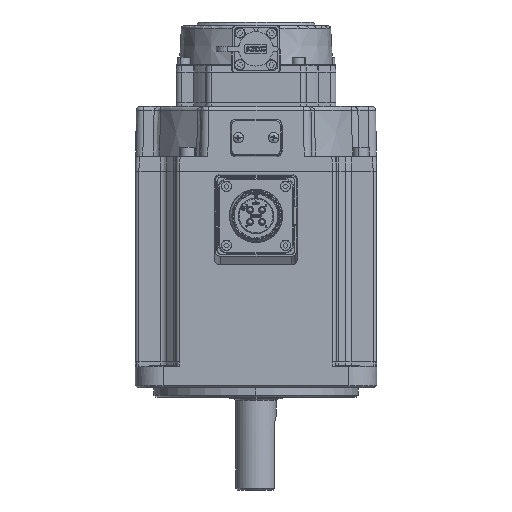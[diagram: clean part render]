
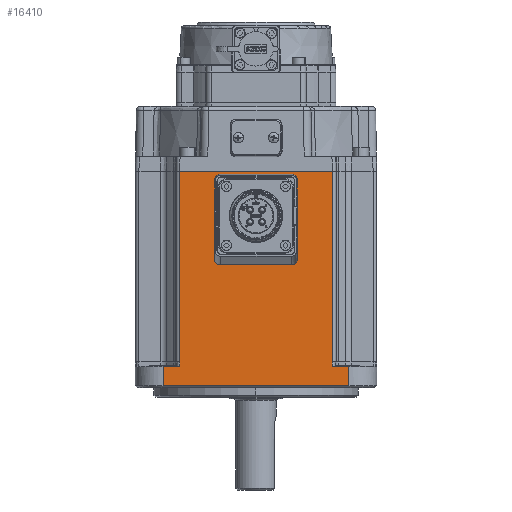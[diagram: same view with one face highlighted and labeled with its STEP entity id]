
A CAD part, left-side view. The second image highlights one B-rep face of the part: STEP entity #16410.
In plain terms, the highlighted planar face has unit normal (-1, 0, 0).
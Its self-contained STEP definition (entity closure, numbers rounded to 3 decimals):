
#45 = CARTESIAN_POINT ( 'NONE',  ( -65., 50., -65.75 ) ) ;
#105 = VECTOR ( 'NONE', #78436, 1000. ) ;
#333 = CARTESIAN_POINT ( 'NONE',  ( -65., -50., -65.75 ) ) ;
#641 = VECTOR ( 'NONE', #93406, 1000. ) ;
#887 = EDGE_CURVE ( 'NONE', #80078, #46115, #82556, .T. ) ;
#2373 = VECTOR ( 'NONE', #37106, 1000. ) ;
#2708 = EDGE_CURVE ( 'NONE', #79660, #63999, #80092, .T. ) ;
#3411 = CARTESIAN_POINT ( 'NONE',  ( -65., -43., 49.75 ) ) ;
#6315 = CARTESIAN_POINT ( 'NONE',  ( -65., 41.035, 49.75 ) ) ;
#7345 = VERTEX_POINT ( 'NONE', #94482 ) ;
#7347 = VERTEX_POINT ( 'NONE', #86104 ) ;
#7440 = VECTOR ( 'NONE', #96226, 1000. ) ;
#9915 = EDGE_CURVE ( 'NONE', #80078, #107008, #11202, .T. ) ;
#10335 = CARTESIAN_POINT ( 'NONE',  ( -65., 41.035, 49.75 ) ) ;
#10767 = DIRECTION ( 'NONE',  ( 0., -1., 0.017 ) ) ;
#11202 = LINE ( 'NONE', #3411, #47579 ) ;
#14703 = ORIENTED_EDGE ( 'NONE', *, *, #76554, .T. ) ;
#16410 = ADVANCED_FACE ( 'NONE', ( #44153 ), #68661, .F. ) ;
#16510 = ORIENTED_EDGE ( 'NONE', *, *, #2708, .T. ) ;
#16606 = LINE ( 'NONE', #25550, #641 ) ;
#18053 = CARTESIAN_POINT ( 'NONE',  ( -65., -41.035, -52.75 ) ) ;
#18422 = VECTOR ( 'NONE', #62409, 1000. ) ;
#19902 = VECTOR ( 'NONE', #10767, 1000. ) ;
#20130 = LINE ( 'NONE', #70740, #18422 ) ;
#21121 = VECTOR ( 'NONE', #82573, 1000. ) ;
#25550 = CARTESIAN_POINT ( 'NONE',  ( -65., -50., -65.75 ) ) ;
#31656 = ORIENTED_EDGE ( 'NONE', *, *, #83778, .T. ) ;
#31922 = ORIENTED_EDGE ( 'NONE', *, *, #78232, .T. ) ;
#34912 = ORIENTED_EDGE ( 'NONE', *, *, #81891, .F. ) ;
#37106 = DIRECTION ( 'NONE',  ( 0., 0., 1. ) ) ;
#37268 = CARTESIAN_POINT ( 'NONE',  ( -65., 50., 49.75 ) ) ;
#38842 = LINE ( 'NONE', #107291, #104856 ) ;
#41761 = EDGE_CURVE ( 'NONE', #79660, #48491, #53053, .T. ) ;
#42518 = ORIENTED_EDGE ( 'NONE', *, *, #887, .T. ) ;
#43014 = ORIENTED_EDGE ( 'NONE', *, *, #9915, .F. ) ;
#44153 = FACE_OUTER_BOUND ( 'NONE', #63344, .T. ) ;
#45137 = DIRECTION ( 'NONE',  ( 0., -1., 0. ) ) ;
#46115 = VERTEX_POINT ( 'NONE', #47126 ) ;
#47126 = CARTESIAN_POINT ( 'NONE',  ( -65., 41.035, -52.75 ) ) ;
#47579 = VECTOR ( 'NONE', #45137, 1000. ) ;
#48491 = VERTEX_POINT ( 'NONE', #62778 ) ;
#48634 = LINE ( 'NONE', #58077, #21121 ) ;
#50275 = VERTEX_POINT ( 'NONE', #18053 ) ;
#50809 = EDGE_CURVE ( 'NONE', #95306, #7345, #20130, .T. ) ;
#51697 = ORIENTED_EDGE ( 'NONE', *, *, #64375, .T. ) ;
#53053 = LINE ( 'NONE', #86991, #19902 ) ;
#58077 = CARTESIAN_POINT ( 'NONE',  ( -65., -41.035, 49.75 ) ) ;
#62409 = DIRECTION ( 'NONE',  ( 0., 0., 1. ) ) ;
#62778 = CARTESIAN_POINT ( 'NONE',  ( -65., 41.035, -55.094 ) ) ;
#63344 = EDGE_LOOP ( 'NONE', ( #42518, #31922, #82975, #16510, #51697, #104233, #34912, #14703, #31656, #43014 ) ) ;
#63999 = VERTEX_POINT ( 'NONE', #45 ) ;
#64375 = EDGE_CURVE ( 'NONE', #63999, #95306, #16606, .T. ) ;
#64404 = CARTESIAN_POINT ( 'NONE',  ( -65., 50., -55.247 ) ) ;
#67380 = VECTOR ( 'NONE', #97099, 1000. ) ;
#68661 = PLANE ( 'NONE',  #71179 ) ;
#69216 = CARTESIAN_POINT ( 'NONE',  ( -65., -43., 49.75 ) ) ;
#69507 = CARTESIAN_POINT ( 'NONE',  ( -65., -41.139, -55.098 ) ) ;
#70467 = CARTESIAN_POINT ( 'NONE',  ( -65., -41.035, 49.75 ) ) ;
#70740 = CARTESIAN_POINT ( 'NONE',  ( -65., -50., 49.75 ) ) ;
#71179 = AXIS2_PLACEMENT_3D ( 'NONE', #69216, #84254, #78104 ) ;
#72308 = CARTESIAN_POINT ( 'NONE',  ( -65., -41.035, 49.75 ) ) ;
#76554 = EDGE_CURVE ( 'NONE', #7347, #50275, #48634, .T. ) ;
#78104 = DIRECTION ( 'NONE',  ( 0., 1., 0. ) ) ;
#78232 = EDGE_CURVE ( 'NONE', #46115, #48491, #38842, .T. ) ;
#78436 = DIRECTION ( 'NONE',  ( 0., 0., -1. ) ) ;
#79660 = VERTEX_POINT ( 'NONE', #64404 ) ;
#80078 = VERTEX_POINT ( 'NONE', #10335 ) ;
#80092 = LINE ( 'NONE', #37268, #105 ) ;
#81891 = EDGE_CURVE ( 'NONE', #7347, #7345, #94570, .T. ) ;
#82556 = LINE ( 'NONE', #6315, #67380 ) ;
#82573 = DIRECTION ( 'NONE',  ( 0., 0., 1. ) ) ;
#82975 = ORIENTED_EDGE ( 'NONE', *, *, #41761, .F. ) ;
#83778 = EDGE_CURVE ( 'NONE', #50275, #107008, #98286, .T. ) ;
#84254 = DIRECTION ( 'NONE',  ( 1., 0., 0. ) ) ;
#86104 = CARTESIAN_POINT ( 'NONE',  ( -65., -41.035, -55.096 ) ) ;
#86991 = CARTESIAN_POINT ( 'NONE',  ( -65., -44.773, -53.622 ) ) ;
#93406 = DIRECTION ( 'NONE',  ( 0., -1., 0. ) ) ;
#94482 = CARTESIAN_POINT ( 'NONE',  ( -65., -50., -55.256 ) ) ;
#94570 = LINE ( 'NONE', #69507, #7440 ) ;
#95306 = VERTEX_POINT ( 'NONE', #333 ) ;
#96226 = DIRECTION ( 'NONE',  ( 0., -1., -0.018 ) ) ;
#97099 = DIRECTION ( 'NONE',  ( 0., 0., -1. ) ) ;
#98286 = LINE ( 'NONE', #70467, #2373 ) ;
#98929 = DIRECTION ( 'NONE',  ( 0., 0., -1. ) ) ;
#104233 = ORIENTED_EDGE ( 'NONE', *, *, #50809, .T. ) ;
#104856 = VECTOR ( 'NONE', #98929, 1000. ) ;
#107008 = VERTEX_POINT ( 'NONE', #72308 ) ;
#107291 = CARTESIAN_POINT ( 'NONE',  ( -65., 41.035, -52.75 ) ) ;
